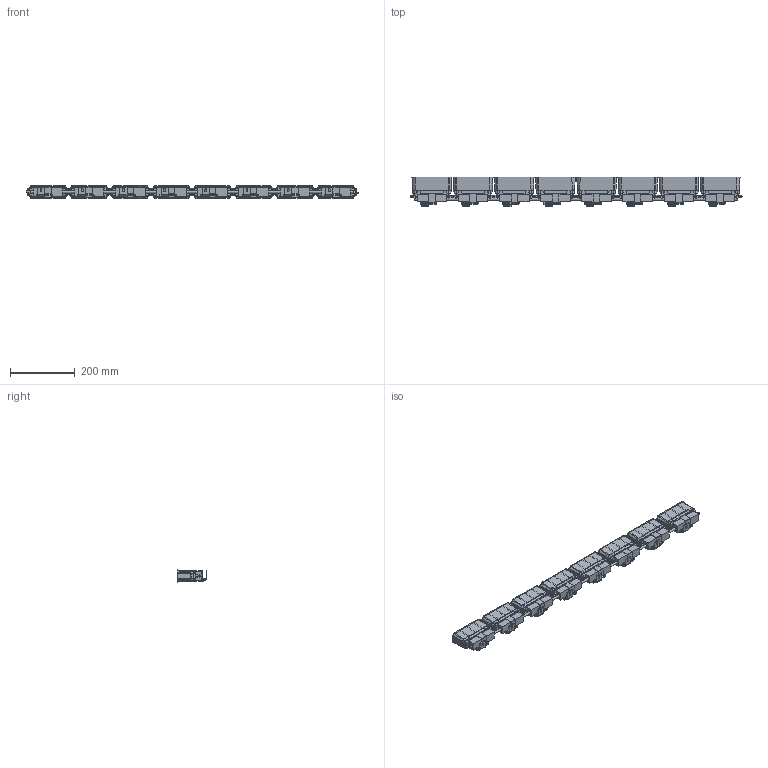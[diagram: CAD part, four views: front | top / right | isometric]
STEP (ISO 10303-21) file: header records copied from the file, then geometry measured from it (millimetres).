
FILE_DESCRIPTION (( 'STEP AP214' ), '1' );
FILE_NAME ('Linear Flex - Angled bracket with tophat.STEP', '2025-08-21T14:31:17', ( '' ), ( '' ), 'SwSTEP 2.0', 'SolidWorks 2025', '' );
FILE_SCHEMA (( 'AUTOMOTIVE_DESIGN' ));
Length unit declared in the file: millimetre
Products named in the file (9): Linear Flex - Body; Linear Flex - Tophat; Linear Flex - Coupling ring and nut; Linear Flex - Coupling screw_L50; Linear Flex - Bracket bottom; Linear Flex - Angled bracket with tophat; Linear Flex - Coupling screw_Recessed; Part28^Linear Flex_Wireless; Linear Flex - Bracket topside
Assembly tree (63 placements, depth 2):
  Linear Flex - Angled bracket with tophat
    Linear Flex - Body  x8
    Linear Flex - Coupling screw_Recessed  x7
    Linear Flex - Coupling ring and nut  x15
    Part28^Linear Flex_Wireless
    Linear Flex - Bracket bottom  x8
    Linear Flex - Bracket topside  x8
    Linear Flex - Coupling screw_L50  x8
    Linear Flex - Tophat  x8
Bounding box: 1028 x 92.78 x 38.18 mm (x, y, z)
Volume: 1051229.3 mm3; surface area: 504982.7 mm2
Topology: 78 solids, 78 shells, 5534 faces, 13742 edges, 8196 vertices
Faces by surface type: cylinder 2184, plane 1747, bspline 1248, cone 165, sphere 160, torus 30
Full cylindrical faces by diameter (mm): 4 x15, 5 x16, 6.5 x9, 7 x16
Entity records: 29371 total; most frequent: CARTESIAN_POINT 13447, ORIENTED_EDGE 3230, DIRECTION 2865, EDGE_CURVE 1615, AXIS2_PLACEMENT_3D 1098, VERTEX_POINT 984, EDGE_LOOP 711, FACE_OUTER_BOUND 678
